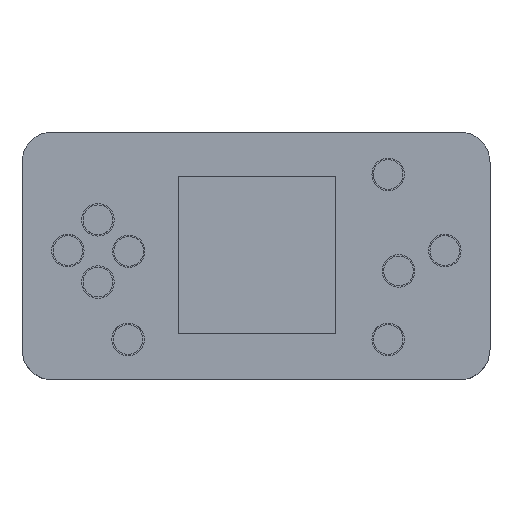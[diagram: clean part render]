
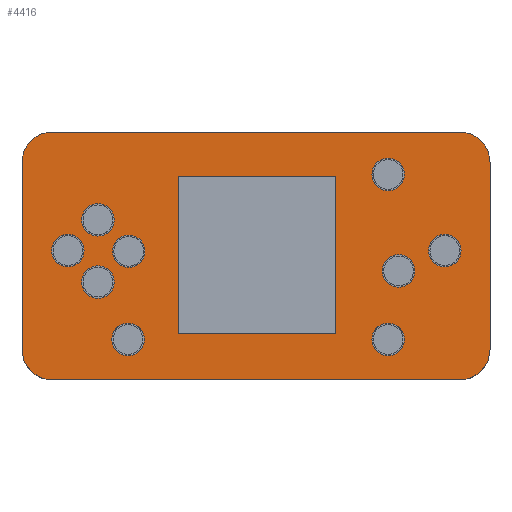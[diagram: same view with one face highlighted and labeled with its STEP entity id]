
A CAD part, top view. The second image highlights one B-rep face of the part: STEP entity #4416.
In plain terms, the highlighted planar face has unit normal (0, 0, 1).
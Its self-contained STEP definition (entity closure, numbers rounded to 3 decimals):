
#3658 = VERTEX_POINT('',#3659);
#3659 = CARTESIAN_POINT('',(-20.296,-15.174,24.5));
#3665 = EDGE_CURVE('',#3658,#3658,#3666,.T.);
#3666 = CIRCLE('',#3667,2.95);
#3667 = AXIS2_PLACEMENT_3D('',#3668,#3669,#3670);
#3668 = CARTESIAN_POINT('',(-23.246,-15.174,24.5));
#3669 = DIRECTION('',(0.,0.,-1.));
#3670 = DIRECTION('',(1.,0.,0.));
#3683 = VERTEX_POINT('',#3684);
#3684 = CARTESIAN_POINT('',(-25.757,-4.76,24.5));
#3690 = EDGE_CURVE('',#3683,#3683,#3691,.T.);
#3691 = CIRCLE('',#3692,2.95);
#3692 = AXIS2_PLACEMENT_3D('',#3693,#3694,#3695);
#3693 = CARTESIAN_POINT('',(-28.707,-4.76,24.5));
#3694 = DIRECTION('',(0.,0.,-1.));
#3695 = DIRECTION('',(1.,0.,0.));
#3708 = VERTEX_POINT('',#3709);
#3709 = CARTESIAN_POINT('',(26.948,-15.174,24.5));
#3715 = EDGE_CURVE('',#3708,#3708,#3716,.T.);
#3716 = CIRCLE('',#3717,2.95);
#3717 = AXIS2_PLACEMENT_3D('',#3718,#3719,#3720);
#3718 = CARTESIAN_POINT('',(23.998,-15.174,24.5));
#3719 = DIRECTION('',(0.,0.,-1.));
#3720 = DIRECTION('',(1.,0.,0.));
#3733 = VERTEX_POINT('',#3734);
#3734 = CARTESIAN_POINT('',(28.853,-2.728,24.5));
#3740 = EDGE_CURVE('',#3733,#3733,#3741,.T.);
#3741 = CIRCLE('',#3742,2.95);
#3742 = AXIS2_PLACEMENT_3D('',#3743,#3744,#3745);
#3743 = CARTESIAN_POINT('',(25.903,-2.728,24.5));
#3744 = DIRECTION('',(0.,0.,-1.));
#3745 = DIRECTION('',(1.,0.,0.));
#3758 = VERTEX_POINT('',#3759);
#3759 = CARTESIAN_POINT('',(-31.218,0.955,24.5));
#3765 = EDGE_CURVE('',#3758,#3758,#3766,.T.);
#3766 = CIRCLE('',#3767,2.95);
#3767 = AXIS2_PLACEMENT_3D('',#3768,#3769,#3770);
#3768 = CARTESIAN_POINT('',(-34.168,0.955,24.5));
#3769 = DIRECTION('',(0.,0.,-1.));
#3770 = DIRECTION('',(1.,0.,0.));
#3783 = VERTEX_POINT('',#3784);
#3784 = CARTESIAN_POINT('',(-20.169,0.828,24.5));
#3790 = EDGE_CURVE('',#3783,#3783,#3791,.T.);
#3791 = CIRCLE('',#3792,2.95);
#3792 = AXIS2_PLACEMENT_3D('',#3793,#3794,#3795);
#3793 = CARTESIAN_POINT('',(-23.119,0.828,24.5));
#3794 = DIRECTION('',(0.,0.,-1.));
#3795 = DIRECTION('',(1.,0.,0.));
#3808 = VERTEX_POINT('',#3809);
#3809 = CARTESIAN_POINT('',(-25.757,6.543,24.5));
#3815 = EDGE_CURVE('',#3808,#3808,#3816,.T.);
#3816 = CIRCLE('',#3817,2.95);
#3817 = AXIS2_PLACEMENT_3D('',#3818,#3819,#3820);
#3818 = CARTESIAN_POINT('',(-28.707,6.543,24.5));
#3819 = DIRECTION('',(0.,0.,-1.));
#3820 = DIRECTION('',(1.,0.,0.));
#3832 = VERTEX_POINT('',#3833);
#3833 = CARTESIAN_POINT('',(14.37,-14.137,24.5));
#3841 = VERTEX_POINT('',#3842);
#3842 = CARTESIAN_POINT('',(-14.15,-14.137,24.5));
#3848 = EDGE_CURVE('',#3832,#3841,#3849,.T.);
#3849 = LINE('',#3850,#3851);
#3850 = CARTESIAN_POINT('',(-7.075,-14.137,24.5));
#3851 = VECTOR('',#3852,1.);
#3852 = DIRECTION('',(-1.,0.,0.));
#3865 = VERTEX_POINT('',#3866);
#3866 = CARTESIAN_POINT('',(14.37,14.383,24.5));
#3872 = EDGE_CURVE('',#3832,#3865,#3873,.T.);
#3873 = LINE('',#3874,#3875);
#3874 = CARTESIAN_POINT('',(14.37,-7.069,24.5));
#3875 = VECTOR('',#3876,1.);
#3876 = DIRECTION('',(0.,1.,0.));
#3889 = VERTEX_POINT('',#3890);
#3890 = CARTESIAN_POINT('',(-14.15,14.383,24.5));
#3896 = EDGE_CURVE('',#3865,#3889,#3897,.T.);
#3897 = LINE('',#3898,#3899);
#3898 = CARTESIAN_POINT('',(-7.075,14.383,24.5));
#3899 = VECTOR('',#3900,1.);
#3900 = DIRECTION('',(-1.,0.,0.));
#3913 = EDGE_CURVE('',#3841,#3889,#3914,.T.);
#3914 = LINE('',#3915,#3916);
#3915 = CARTESIAN_POINT('',(-14.15,-7.069,24.5));
#3916 = VECTOR('',#3917,1.);
#3917 = DIRECTION('',(0.,1.,0.));
#3929 = VERTEX_POINT('',#3930);
#3930 = CARTESIAN_POINT('',(37.235,0.955,24.5));
#3936 = EDGE_CURVE('',#3929,#3929,#3937,.T.);
#3937 = CIRCLE('',#3938,2.95);
#3938 = AXIS2_PLACEMENT_3D('',#3939,#3940,#3941);
#3939 = CARTESIAN_POINT('',(34.285,0.955,24.5));
#3940 = DIRECTION('',(0.,0.,-1.));
#3941 = DIRECTION('',(1.,0.,0.));
#3954 = VERTEX_POINT('',#3955);
#3955 = CARTESIAN_POINT('',(26.948,14.798,24.5));
#3961 = EDGE_CURVE('',#3954,#3954,#3962,.T.);
#3962 = CIRCLE('',#3963,2.95);
#3963 = AXIS2_PLACEMENT_3D('',#3964,#3965,#3966);
#3964 = CARTESIAN_POINT('',(23.998,14.798,24.5));
#3965 = DIRECTION('',(0.,0.,-1.));
#3966 = DIRECTION('',(1.,0.,0.));
#4416 = ADVANCED_FACE('',(#4417,#4487,#4490,#4493,#4496,#4499,#4502,
    #4505,#4508,#4514,#4517),#4520,.T.);
#4417 = FACE_BOUND('',#4418,.T.);
#4418 = EDGE_LOOP('',(#4419,#4430,#4438,#4447,#4455,#4464,#4472,#4481));
#4419 = ORIENTED_EDGE('',*,*,#4420,.T.);
#4420 = EDGE_CURVE('',#4421,#4423,#4425,.T.);
#4421 = VERTEX_POINT('',#4422);
#4422 = CARTESIAN_POINT('',(-42.5,-17.,24.5));
#4423 = VERTEX_POINT('',#4424);
#4424 = CARTESIAN_POINT('',(-37.,-22.5,24.5));
#4425 = CIRCLE('',#4426,5.5);
#4426 = AXIS2_PLACEMENT_3D('',#4427,#4428,#4429);
#4427 = CARTESIAN_POINT('',(-37.,-17.,24.5));
#4428 = DIRECTION('',(0.,0.,1.));
#4429 = DIRECTION('',(1.,0.,0.));
#4430 = ORIENTED_EDGE('',*,*,#4431,.T.);
#4431 = EDGE_CURVE('',#4423,#4432,#4434,.T.);
#4432 = VERTEX_POINT('',#4433);
#4433 = CARTESIAN_POINT('',(37.,-22.5,24.5));
#4434 = LINE('',#4435,#4436);
#4435 = CARTESIAN_POINT('',(-37.,-22.5,24.5));
#4436 = VECTOR('',#4437,1.);
#4437 = DIRECTION('',(1.,0.,0.));
#4438 = ORIENTED_EDGE('',*,*,#4439,.T.);
#4439 = EDGE_CURVE('',#4432,#4440,#4442,.T.);
#4440 = VERTEX_POINT('',#4441);
#4441 = CARTESIAN_POINT('',(42.5,-17.,24.5));
#4442 = CIRCLE('',#4443,5.5);
#4443 = AXIS2_PLACEMENT_3D('',#4444,#4445,#4446);
#4444 = CARTESIAN_POINT('',(37.,-17.,24.5));
#4445 = DIRECTION('',(0.,0.,1.));
#4446 = DIRECTION('',(1.,0.,0.));
#4447 = ORIENTED_EDGE('',*,*,#4448,.T.);
#4448 = EDGE_CURVE('',#4440,#4449,#4451,.T.);
#4449 = VERTEX_POINT('',#4450);
#4450 = CARTESIAN_POINT('',(42.5,17.,24.5));
#4451 = LINE('',#4452,#4453);
#4452 = CARTESIAN_POINT('',(42.5,-17.,24.5));
#4453 = VECTOR('',#4454,1.);
#4454 = DIRECTION('',(0.,1.,0.));
#4455 = ORIENTED_EDGE('',*,*,#4456,.T.);
#4456 = EDGE_CURVE('',#4449,#4457,#4459,.T.);
#4457 = VERTEX_POINT('',#4458);
#4458 = CARTESIAN_POINT('',(37.,22.5,24.5));
#4459 = CIRCLE('',#4460,5.5);
#4460 = AXIS2_PLACEMENT_3D('',#4461,#4462,#4463);
#4461 = CARTESIAN_POINT('',(37.,17.,24.5));
#4462 = DIRECTION('',(0.,0.,1.));
#4463 = DIRECTION('',(1.,0.,0.));
#4464 = ORIENTED_EDGE('',*,*,#4465,.F.);
#4465 = EDGE_CURVE('',#4466,#4457,#4468,.T.);
#4466 = VERTEX_POINT('',#4467);
#4467 = CARTESIAN_POINT('',(-37.,22.5,24.5));
#4468 = LINE('',#4469,#4470);
#4469 = CARTESIAN_POINT('',(-37.,22.5,24.5));
#4470 = VECTOR('',#4471,1.);
#4471 = DIRECTION('',(1.,0.,0.));
#4472 = ORIENTED_EDGE('',*,*,#4473,.T.);
#4473 = EDGE_CURVE('',#4466,#4474,#4476,.T.);
#4474 = VERTEX_POINT('',#4475);
#4475 = CARTESIAN_POINT('',(-42.5,17.,24.5));
#4476 = CIRCLE('',#4477,5.5);
#4477 = AXIS2_PLACEMENT_3D('',#4478,#4479,#4480);
#4478 = CARTESIAN_POINT('',(-37.,17.,24.5));
#4479 = DIRECTION('',(0.,0.,1.));
#4480 = DIRECTION('',(1.,0.,0.));
#4481 = ORIENTED_EDGE('',*,*,#4482,.F.);
#4482 = EDGE_CURVE('',#4421,#4474,#4483,.T.);
#4483 = LINE('',#4484,#4485);
#4484 = CARTESIAN_POINT('',(-42.5,-17.,24.5));
#4485 = VECTOR('',#4486,1.);
#4486 = DIRECTION('',(0.,1.,0.));
#4487 = FACE_BOUND('',#4488,.T.);
#4488 = EDGE_LOOP('',(#4489));
#4489 = ORIENTED_EDGE('',*,*,#3665,.T.);
#4490 = FACE_BOUND('',#4491,.T.);
#4491 = EDGE_LOOP('',(#4492));
#4492 = ORIENTED_EDGE('',*,*,#3690,.T.);
#4493 = FACE_BOUND('',#4494,.T.);
#4494 = EDGE_LOOP('',(#4495));
#4495 = ORIENTED_EDGE('',*,*,#3715,.T.);
#4496 = FACE_BOUND('',#4497,.T.);
#4497 = EDGE_LOOP('',(#4498));
#4498 = ORIENTED_EDGE('',*,*,#3740,.T.);
#4499 = FACE_BOUND('',#4500,.T.);
#4500 = EDGE_LOOP('',(#4501));
#4501 = ORIENTED_EDGE('',*,*,#3765,.T.);
#4502 = FACE_BOUND('',#4503,.T.);
#4503 = EDGE_LOOP('',(#4504));
#4504 = ORIENTED_EDGE('',*,*,#3790,.T.);
#4505 = FACE_BOUND('',#4506,.T.);
#4506 = EDGE_LOOP('',(#4507));
#4507 = ORIENTED_EDGE('',*,*,#3815,.T.);
#4508 = FACE_BOUND('',#4509,.T.);
#4509 = EDGE_LOOP('',(#4510,#4511,#4512,#4513));
#4510 = ORIENTED_EDGE('',*,*,#3848,.T.);
#4511 = ORIENTED_EDGE('',*,*,#3913,.T.);
#4512 = ORIENTED_EDGE('',*,*,#3896,.F.);
#4513 = ORIENTED_EDGE('',*,*,#3872,.F.);
#4514 = FACE_BOUND('',#4515,.T.);
#4515 = EDGE_LOOP('',(#4516));
#4516 = ORIENTED_EDGE('',*,*,#3936,.T.);
#4517 = FACE_BOUND('',#4518,.T.);
#4518 = EDGE_LOOP('',(#4519));
#4519 = ORIENTED_EDGE('',*,*,#3961,.T.);
#4520 = PLANE('',#4521);
#4521 = AXIS2_PLACEMENT_3D('',#4522,#4523,#4524);
#4522 = CARTESIAN_POINT('',(0.,0.,24.5)
  );
#4523 = DIRECTION('',(0.,0.,1.));
#4524 = DIRECTION('',(1.,0.,0.));
